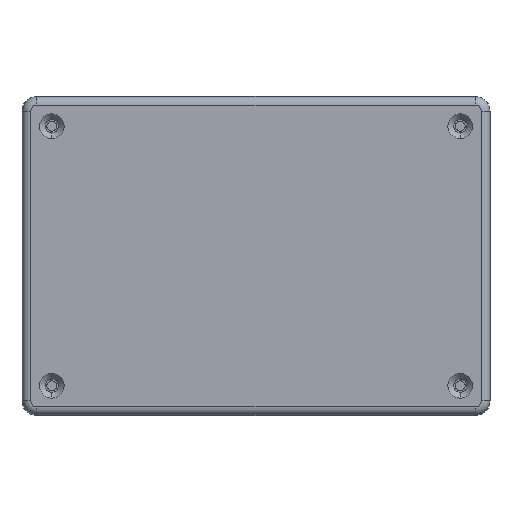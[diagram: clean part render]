
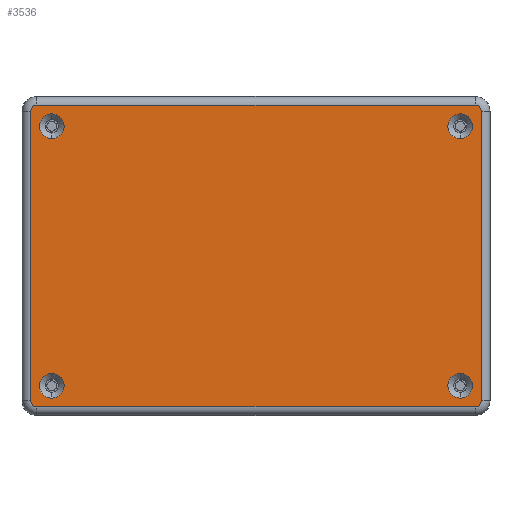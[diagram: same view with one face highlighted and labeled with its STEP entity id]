
A CAD part, front view. The second image highlights one B-rep face of the part: STEP entity #3536.
In plain terms, the highlighted planar face has unit normal (0, -1, 0).
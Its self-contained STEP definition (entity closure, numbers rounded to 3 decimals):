
#36 = PLANE ( 'NONE',  #3683 ) ;
#53 = DIRECTION ( 'NONE',  ( 0., 0., -1. ) ) ;
#144 = CIRCLE ( 'NONE', #1730, 1.464 ) ;
#187 = VERTEX_POINT ( 'NONE', #276 ) ;
#196 = CARTESIAN_POINT ( 'NONE',  ( 48., -3., -27.6 ) ) ;
#276 = CARTESIAN_POINT ( 'NONE',  ( -51.5, -3., -35.464 ) ) ;
#308 = LINE ( 'NONE', #4113, #2475 ) ;
#320 = EDGE_CURVE ( 'NONE', #4596, #187, #3733, .T. ) ;
#335 = AXIS2_PLACEMENT_3D ( 'NONE', #941, #3857, #1350 ) ;
#341 = VERTEX_POINT ( 'NONE', #196 ) ;
#365 = CARTESIAN_POINT ( 'NONE',  ( -52.964, -3., -34. ) ) ;
#439 = FACE_BOUND ( 'NONE', #1560, .T. ) ;
#524 = ORIENTED_EDGE ( 'NONE', *, *, #4807, .T. ) ;
#607 = VERTEX_POINT ( 'NONE', #4739 ) ;
#619 = CARTESIAN_POINT ( 'NONE',  ( -51.5, -3., 35.464 ) ) ;
#672 = DIRECTION ( 'NONE',  ( 1., 0., 0. ) ) ;
#802 = DIRECTION ( 'NONE',  ( 0., -1., 0. ) ) ;
#810 = CARTESIAN_POINT ( 'NONE',  ( -52.964, -3., 34. ) ) ;
#827 = FACE_BOUND ( 'NONE', #1432, .T. ) ;
#851 = VERTEX_POINT ( 'NONE', #1294 ) ;
#941 = CARTESIAN_POINT ( 'NONE',  ( 48., -3., 30.5 ) ) ;
#964 = DIRECTION ( 'NONE',  ( 0., -1., 0. ) ) ;
#989 = LINE ( 'NONE', #3572, #2074 ) ;
#1024 = AXIS2_PLACEMENT_3D ( 'NONE', #3283, #802, #3710 ) ;
#1106 = EDGE_LOOP ( 'NONE', ( #3441, #3827 ) ) ;
#1119 = EDGE_CURVE ( 'NONE', #341, #3198, #1461, .T. ) ;
#1128 = CARTESIAN_POINT ( 'NONE',  ( 48., -3., -33.4 ) ) ;
#1187 = ORIENTED_EDGE ( 'NONE', *, *, #4109, .F. ) ;
#1235 = CARTESIAN_POINT ( 'NONE',  ( -48., -3., -30.5 ) ) ;
#1257 = CIRCLE ( 'NONE', #4088, 1.464 ) ;
#1263 = DIRECTION ( 'NONE',  ( 0., 0., -1. ) ) ;
#1269 = DIRECTION ( 'NONE',  ( 0., 0., 1. ) ) ;
#1282 = CARTESIAN_POINT ( 'NONE',  ( -48., -3., -33.4 ) ) ;
#1294 = CARTESIAN_POINT ( 'NONE',  ( 51.5, -3., -35.464 ) ) ;
#1302 = EDGE_CURVE ( 'NONE', #187, #851, #989, .T. ) ;
#1320 = CARTESIAN_POINT ( 'NONE',  ( -48., -3., 30.5 ) ) ;
#1338 = CARTESIAN_POINT ( 'NONE',  ( 48., -3., 30.5 ) ) ;
#1350 = DIRECTION ( 'NONE',  ( 0., 0., -1. ) ) ;
#1399 = ORIENTED_EDGE ( 'NONE', *, *, #320, .T. ) ;
#1426 = CARTESIAN_POINT ( 'NONE',  ( -51.5, -3., -34. ) ) ;
#1432 = EDGE_LOOP ( 'NONE', ( #1929, #3002 ) ) ;
#1461 = CIRCLE ( 'NONE', #2604, 2.9 ) ;
#1493 = CARTESIAN_POINT ( 'NONE',  ( 48., -3., 27.6 ) ) ;
#1528 = FACE_BOUND ( 'NONE', #3905, .T. ) ;
#1537 = VERTEX_POINT ( 'NONE', #1282 ) ;
#1560 = EDGE_LOOP ( 'NONE', ( #5124, #3676 ) ) ;
#1587 = EDGE_CURVE ( 'NONE', #3005, #1687, #2136, .T. ) ;
#1594 = CARTESIAN_POINT ( 'NONE',  ( 51.5, -3., 35.464 ) ) ;
#1614 = DIRECTION ( 'NONE',  ( 0., 0., 1. ) ) ;
#1625 = EDGE_CURVE ( 'NONE', #4090, #2377, #2982, .T. ) ;
#1642 = DIRECTION ( 'NONE',  ( 0., 0., -1. ) ) ;
#1643 = CARTESIAN_POINT ( 'NONE',  ( 48., -3., 33.4 ) ) ;
#1687 = VERTEX_POINT ( 'NONE', #2770 ) ;
#1712 = CARTESIAN_POINT ( 'NONE',  ( 51.5, -3., 34. ) ) ;
#1730 = AXIS2_PLACEMENT_3D ( 'NONE', #1712, #4642, #2126 ) ;
#1735 = DIRECTION ( 'NONE',  ( 0., 0., -1. ) ) ;
#1758 = DIRECTION ( 'NONE',  ( 0., 0., -1. ) ) ;
#1841 = DIRECTION ( 'NONE',  ( 0., 0., 1. ) ) ;
#1929 = ORIENTED_EDGE ( 'NONE', *, *, #2595, .F. ) ;
#1970 = CIRCLE ( 'NONE', #2020, 2.9 ) ;
#2003 = CIRCLE ( 'NONE', #3155, 1.464 ) ;
#2011 = DIRECTION ( 'NONE',  ( 0., -1., 0. ) ) ;
#2020 = AXIS2_PLACEMENT_3D ( 'NONE', #4685, #2176, #5108 ) ;
#2030 = LINE ( 'NONE', #619, #4126 ) ;
#2074 = VECTOR ( 'NONE', #672, 1000. ) ;
#2081 = CARTESIAN_POINT ( 'NONE',  ( -51.5, -3., 34. ) ) ;
#2084 = CARTESIAN_POINT ( 'NONE',  ( 51.5, -3., -34. ) ) ;
#2110 = VERTEX_POINT ( 'NONE', #4227 ) ;
#2126 = DIRECTION ( 'NONE',  ( 0., 0., 1. ) ) ;
#2136 = CIRCLE ( 'NONE', #2403, 2.9 ) ;
#2145 = EDGE_CURVE ( 'NONE', #2377, #4090, #4730, .T. ) ;
#2176 = DIRECTION ( 'NONE',  ( 0., -1., 0. ) ) ;
#2189 = ORIENTED_EDGE ( 'NONE', *, *, #1302, .T. ) ;
#2377 = VERTEX_POINT ( 'NONE', #1493 ) ;
#2403 = AXIS2_PLACEMENT_3D ( 'NONE', #1320, #4234, #1735 ) ;
#2448 = LINE ( 'NONE', #5027, #3446 ) ;
#2475 = VECTOR ( 'NONE', #1614, 1000. ) ;
#2490 = DIRECTION ( 'NONE',  ( 0., 0., 1. ) ) ;
#2502 = DIRECTION ( 'NONE',  ( 0., -1., 0. ) ) ;
#2595 = EDGE_CURVE ( 'NONE', #3198, #341, #2758, .T. ) ;
#2604 = AXIS2_PLACEMENT_3D ( 'NONE', #3455, #964, #3877 ) ;
#2620 = FACE_BOUND ( 'NONE', #1106, .T. ) ;
#2624 = ORIENTED_EDGE ( 'NONE', *, *, #1587, .F. ) ;
#2658 = DIRECTION ( 'NONE',  ( -1., 0., 0. ) ) ;
#2673 = EDGE_CURVE ( 'NONE', #851, #2110, #1257, .T. ) ;
#2683 = AXIS2_PLACEMENT_3D ( 'NONE', #1338, #4250, #1758 ) ;
#2719 = CARTESIAN_POINT ( 'NONE',  ( 52.964, -3., 34. ) ) ;
#2758 = CIRCLE ( 'NONE', #1024, 2.9 ) ;
#2770 = CARTESIAN_POINT ( 'NONE',  ( -48., -3., 27.6 ) ) ;
#2783 = EDGE_CURVE ( 'NONE', #1537, #607, #1970, .T. ) ;
#2854 = ORIENTED_EDGE ( 'NONE', *, *, #5000, .T. ) ;
#2923 = ORIENTED_EDGE ( 'NONE', *, *, #3994, .T. ) ;
#2972 = ORIENTED_EDGE ( 'NONE', *, *, #4343, .T. ) ;
#2982 = CIRCLE ( 'NONE', #2683, 2.9 ) ;
#3002 = ORIENTED_EDGE ( 'NONE', *, *, #1119, .F. ) ;
#3005 = VERTEX_POINT ( 'NONE', #3484 ) ;
#3074 = CIRCLE ( 'NONE', #4875, 2.9 ) ;
#3127 = ORIENTED_EDGE ( 'NONE', *, *, #4977, .T. ) ;
#3155 = AXIS2_PLACEMENT_3D ( 'NONE', #4512, #2011, #4942 ) ;
#3198 = VERTEX_POINT ( 'NONE', #1128 ) ;
#3283 = CARTESIAN_POINT ( 'NONE',  ( 48., -3., -30.5 ) ) ;
#3441 = ORIENTED_EDGE ( 'NONE', *, *, #2145, .F. ) ;
#3446 = VECTOR ( 'NONE', #1263, 1000. ) ;
#3452 = EDGE_LOOP ( 'NONE', ( #4249, #2923, #2854, #2972, #524, #3127, #1399, #2189 ) ) ;
#3455 = CARTESIAN_POINT ( 'NONE',  ( 48., -3., -30.5 ) ) ;
#3484 = CARTESIAN_POINT ( 'NONE',  ( -48., -3., 33.4 ) ) ;
#3536 = ADVANCED_FACE ( 'NONE', ( #1528, #2620, #827, #439, #4727 ), #36, .F. ) ;
#3572 = CARTESIAN_POINT ( 'NONE',  ( 51.5, -3., -35.464 ) ) ;
#3676 = ORIENTED_EDGE ( 'NONE', *, *, #4881, .F. ) ;
#3683 = AXIS2_PLACEMENT_3D ( 'NONE', #2081, #3776, #1269 ) ;
#3710 = DIRECTION ( 'NONE',  ( 0., 0., -1. ) ) ;
#3723 = AXIS2_PLACEMENT_3D ( 'NONE', #1235, #4146, #1642 ) ;
#3733 = CIRCLE ( 'NONE', #5281, 1.464 ) ;
#3776 = DIRECTION ( 'NONE',  ( 0., 1., 0. ) ) ;
#3827 = ORIENTED_EDGE ( 'NONE', *, *, #1625, .F. ) ;
#3857 = DIRECTION ( 'NONE',  ( 0., -1., 0. ) ) ;
#3877 = DIRECTION ( 'NONE',  ( 0., 0., -1. ) ) ;
#3905 = EDGE_LOOP ( 'NONE', ( #1187, #2624 ) ) ;
#3994 = EDGE_CURVE ( 'NONE', #2110, #4653, #308, .T. ) ;
#4023 = VERTEX_POINT ( 'NONE', #810 ) ;
#4088 = AXIS2_PLACEMENT_3D ( 'NONE', #2084, #5018, #2490 ) ;
#4090 = VERTEX_POINT ( 'NONE', #1643 ) ;
#4109 = EDGE_CURVE ( 'NONE', #1687, #3005, #3074, .T. ) ;
#4113 = CARTESIAN_POINT ( 'NONE',  ( 52.964, -3., 34. ) ) ;
#4126 = VECTOR ( 'NONE', #2658, 1000. ) ;
#4146 = DIRECTION ( 'NONE',  ( 0., -1., 0. ) ) ;
#4227 = CARTESIAN_POINT ( 'NONE',  ( 52.964, -3., -34. ) ) ;
#4234 = DIRECTION ( 'NONE',  ( 0., -1., 0. ) ) ;
#4249 = ORIENTED_EDGE ( 'NONE', *, *, #2673, .T. ) ;
#4250 = DIRECTION ( 'NONE',  ( 0., -1., 0. ) ) ;
#4342 = DIRECTION ( 'NONE',  ( 0., -1., 0. ) ) ;
#4343 = EDGE_CURVE ( 'NONE', #4830, #4839, #2030, .T. ) ;
#4512 = CARTESIAN_POINT ( 'NONE',  ( -51.5, -3., 34. ) ) ;
#4534 = CARTESIAN_POINT ( 'NONE',  ( -51.5, -3., 35.464 ) ) ;
#4596 = VERTEX_POINT ( 'NONE', #365 ) ;
#4642 = DIRECTION ( 'NONE',  ( 0., -1., 0. ) ) ;
#4653 = VERTEX_POINT ( 'NONE', #2719 ) ;
#4685 = CARTESIAN_POINT ( 'NONE',  ( -48., -3., -30.5 ) ) ;
#4727 = FACE_OUTER_BOUND ( 'NONE', #3452, .T. ) ;
#4730 = CIRCLE ( 'NONE', #335, 2.9 ) ;
#4739 = CARTESIAN_POINT ( 'NONE',  ( -48., -3., -27.6 ) ) ;
#4807 = EDGE_CURVE ( 'NONE', #4839, #4023, #2003, .T. ) ;
#4830 = VERTEX_POINT ( 'NONE', #1594 ) ;
#4839 = VERTEX_POINT ( 'NONE', #4534 ) ;
#4875 = AXIS2_PLACEMENT_3D ( 'NONE', #5028, #2502, #53 ) ;
#4881 = EDGE_CURVE ( 'NONE', #607, #1537, #4954, .T. ) ;
#4942 = DIRECTION ( 'NONE',  ( 0., 0., 1. ) ) ;
#4954 = CIRCLE ( 'NONE', #3723, 2.9 ) ;
#4977 = EDGE_CURVE ( 'NONE', #4023, #4596, #2448, .T. ) ;
#5000 = EDGE_CURVE ( 'NONE', #4653, #4830, #144, .T. ) ;
#5018 = DIRECTION ( 'NONE',  ( 0., -1., 0. ) ) ;
#5027 = CARTESIAN_POINT ( 'NONE',  ( -52.964, -3., -34. ) ) ;
#5028 = CARTESIAN_POINT ( 'NONE',  ( -48., -3., 30.5 ) ) ;
#5108 = DIRECTION ( 'NONE',  ( 0., 0., -1. ) ) ;
#5124 = ORIENTED_EDGE ( 'NONE', *, *, #2783, .F. ) ;
#5281 = AXIS2_PLACEMENT_3D ( 'NONE', #1426, #4342, #1841 ) ;
